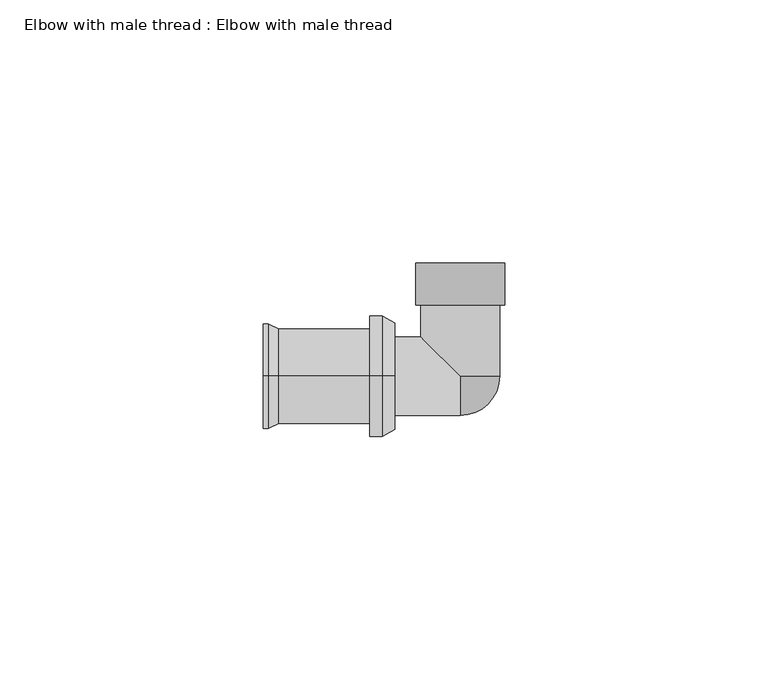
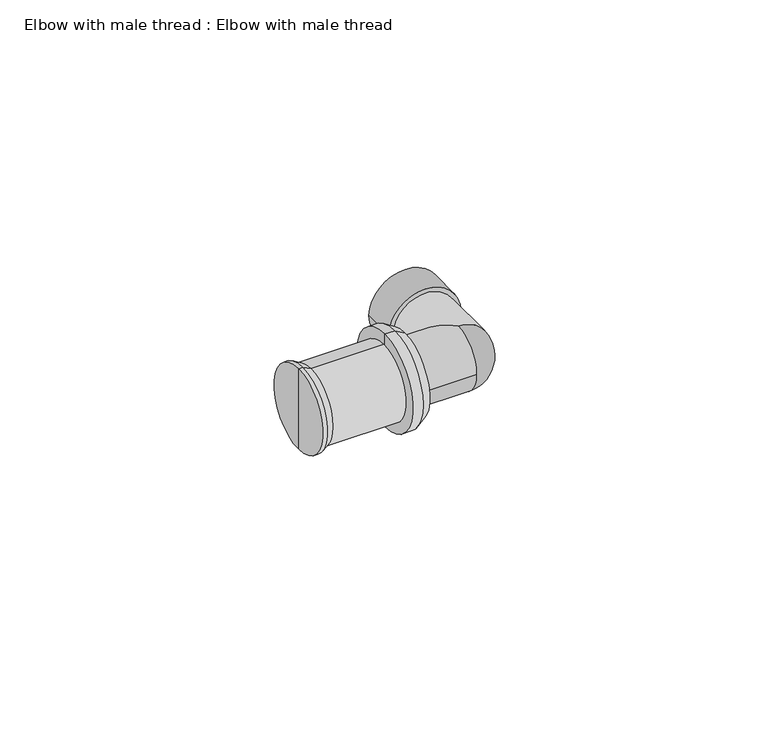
"""IFC4 building model written with IfcOpenShell, lengths in millimetres: pipe fitting geometry, Elbow with male thread : Elbow with male thread."""

from ifc_helpers import new_model, si_unit, point, frame, origin, place, context, project, spatial, polyline, circle_curve, ellipse_curve, trimmed, source, transform, mapped, element, save
from ifc_brep_helpers import plane_surface, cylinder_surface, revolved_surface, advanced_brep


def elbow_with_male_thread_elbow_with_male_thread_c3eabbbd(model_context):
    return source(origin(), model_context, "Body", "AdvancedBrep", [
        advanced_brep(
        [(-12.5, 0.0, 0.0), (-12.5, 0.0, 10.1432269), (-12.5, 0.0, -10.1432269), (-17.2, 0.0, -11.5), (-17.2, 0.0, 11.5), (-17.2, 0.0, 0.0), (-14.85, 0.0, -11.5), (-14.85, 0.0, 11.5)],
        [
            (0, 1),
            (1, 2, circle_curve(frame((-12.5, 0.0, 0.0), z_axis=(1.0, 0.0, 0.0), x_axis=(0.0, 0.0, 1.0)), 10.1432269)),
            (2, 0),
            (2, 1, circle_curve(frame((-12.5, 0.0, 0.0), z_axis=(1.0, 0.0, 0.0), x_axis=(0.0, 0.0, 1.0)), 10.1432269)),
            (3, 4, circle_curve(frame((-17.2, 0.0, 0.0), z_axis=(-1.0, 0.0, 0.0), x_axis=(0.0, 0.0, 1.0)), 11.5)),
            (4, 5),
            (5, 3),
            (4, 3, circle_curve(frame((-17.2, 0.0, 0.0), z_axis=(-1.0, 0.0, 0.0), x_axis=(0.0, 0.0, 1.0)), 11.5)),
            (6, 7, circle_curve(frame((-14.85, 0.0, 0.0), z_axis=(-1.0, 0.0, 0.0), x_axis=(0.0, 0.0, 1.0)), 11.5)),
            (7, 4),
            (3, 6),
            (7, 6, circle_curve(frame((-14.85, 0.0, 0.0), z_axis=(-1.0, 0.0, 0.0), x_axis=(0.0, 0.0, 1.0)), 11.5)),
            (1, 7),
            (6, 2),
        ],
        [
            plane_surface(frame((-12.5, 0.0, 0.0), z_axis=(1.0, 0.0, 0.0), x_axis=(0.0, 0.0, 1.0))),
            plane_surface(frame((-17.2, 0.0, 0.0), z_axis=(-1.0, 0.0, 0.0), x_axis=(0.0, 0.0, 1.0))),
            cylinder_surface(frame((-13.5, 0.0, 0.0), z_axis=(1.0, 0.0, 0.0), x_axis=(0.0, 0.0, 1.0)), 11.5),
            revolved_surface(polyline([(-14.85, 0.0, 11.5), (-12.5, 0.0, 10.1432269)]), (-13.5, 0.0, 0.0), (1.0, 0.0, 0.0)),
        ],
        [
            (0, [[1, 2, 3]]),
            (0, [[-3, 4, -1]]),
            (1, [[5, 6, 7]]),
            (1, [[8, -7, -6]]),
            (2, [[9, 10, -5, 11]]),
            (2, [[12, -11, -8, -10]]),
            (3, [[-2, 13, -9, 14]]),
            (3, [[-4, -14, -12, -13]]),
        ],
    ),
        advanced_brep(
        [(-17.2, 0.0, -9.0), (-17.2, 0.0, 9.0), (-34.5, 0.0, 9.0), (-34.5, 0.0, -9.0), (-37.5, 0.0, -10.0), (-37.5, 0.0, 10.0), (-37.5, 0.0, 0.0), (-17.2, 0.0, 0.0), (-36.5, 0.0, -10.0), (-36.5, 0.0, 10.0)],
        [
            (0, 1, circle_curve(frame((-17.2, 0.0, 0.0), z_axis=(-1.0, 0.0, 0.0), x_axis=(0.0, 0.0, 1.0)), 9.0)),
            (1, 2),
            (2, 3, circle_curve(frame((-34.5, 0.0, 0.0), z_axis=(1.0, 0.0, 0.0), x_axis=(0.0, 0.0, 1.0)), 9.0)),
            (3, 0),
            (1, 0, circle_curve(frame((-17.2, 0.0, 0.0), z_axis=(-1.0, 0.0, 0.0), x_axis=(0.0, 0.0, 1.0)), 9.0)),
            (3, 2, circle_curve(frame((-34.5, 0.0, 0.0), z_axis=(1.0, 0.0, 0.0), x_axis=(0.0, 0.0, 1.0)), 9.0)),
            (4, 5, circle_curve(frame((-37.5, 0.0, 0.0), z_axis=(-1.0, 0.0, 0.0), x_axis=(0.0, 0.0, 1.0)), 10.0)),
            (5, 6),
            (6, 4),
            (5, 4, circle_curve(frame((-37.5, 0.0, 0.0), z_axis=(-1.0, 0.0, 0.0), x_axis=(0.0, 0.0, 1.0)), 10.0)),
            (7, 1),
            (0, 7),
            (8, 9, circle_curve(frame((-36.5, 0.0, 0.0), z_axis=(-1.0, 0.0, 0.0), x_axis=(0.0, 0.0, 1.0)), 10.0)),
            (9, 5),
            (4, 8),
            (9, 8, circle_curve(frame((-36.5, 0.0, 0.0), z_axis=(-1.0, 0.0, 0.0), x_axis=(0.0, 0.0, 1.0)), 10.0)),
            (2, 9),
            (8, 3),
        ],
        [
            cylinder_surface(frame((1898.3038476, 0.0, 0.0), z_axis=(1.0, 0.0, 0.0), x_axis=(0.0, 0.0, 1.0)), 9.0),
            plane_surface(frame((-37.5, 0.0, 0.0), z_axis=(-1.0, 0.0, 0.0), x_axis=(0.0, 0.0, 1.0))),
            plane_surface(frame((-17.2, 0.0, 0.0), z_axis=(1.0, 0.0, 0.0), x_axis=(0.0, 0.0, 1.0))),
            cylinder_surface(frame((1898.3038476, 0.0, 0.0), z_axis=(1.0, 0.0, 0.0), x_axis=(0.0, 0.0, 1.0)), 10.0),
            revolved_surface(polyline([(-36.5, 0.0, 10.0), (-34.5, 0.0, 9.0)]), (1898.3038476, 0.0, 0.0), (1.0, 0.0, 0.0)),
        ],
        [
            (0, [[1, 2, 3, 4]]),
            (0, [[5, -4, 6, -2]]),
            (1, [[7, 8, 9]]),
            (1, [[10, -9, -8]]),
            (2, [[11, -1, 12]]),
            (2, [[-12, -5, -11]]),
            (3, [[13, 14, -7, 15]]),
            (3, [[16, -15, -10, -14]]),
            (4, [[-3, 17, -13, 18]]),
            (4, [[-6, -18, -16, -17]]),
        ],
    ),
        advanced_brep(
        [(-8.5, 21.5703979, 0.0), (8.5, 21.5703979, 0.0), (8.5, 13.5, 0.0), (-8.5, 13.5, 0.0), (0.0, 21.5703979, 0.0), (7.5, 13.5, 0.0), (-7.5, 13.5, 0.0), (7.5, 0.0, 0.0), (-7.5, 7.5, 0.0), (0.0, 0.0, 7.5), (0.0, 0.0, -7.5), (-13.5, 7.5, 0.0), (-13.5, -7.5, 0.0), (0.0, -7.5, 0.0)],
        [
            (0, 1, circle_curve(frame((0.0, 21.5703979, 0.0), z_axis=(0.0, -1.0, 0.0), x_axis=(1.0, 0.0, 0.0)), 8.5)),
            (1, 2),
            (2, 3, circle_curve(frame((0.0, 13.5, 0.0), z_axis=(0.0, 1.0, 0.0), x_axis=(1.0, 0.0, 0.0)), 8.5)),
            (3, 0),
            (1, 0, circle_curve(frame((0.0, 21.5703979, 0.0), z_axis=(0.0, -1.0, 0.0), x_axis=(1.0, 0.0, 0.0)), 8.5)),
            (3, 2, circle_curve(frame((0.0, 13.5, 0.0), z_axis=(0.0, 1.0, 0.0), x_axis=(1.0, 0.0, 0.0)), 8.5)),
            (0, 4),
            (4, 1),
            (2, 5),
            (5, 6, circle_curve(frame((0.0, 13.5, 0.0), z_axis=(0.0, 1.0, 0.0), x_axis=(-1.0, 0.0, 0.0)), 7.5)),
            (6, 3),
            (6, 5, circle_curve(frame((0.0, 13.5, 0.0), z_axis=(0.0, 1.0, 0.0), x_axis=(-1.0, 0.0, 0.0)), 7.5)),
            (7, 5),
            (6, 8),
            (8, 9, ellipse_curve(frame((0.0, 0.0, 0.0), z_axis=(0.7071067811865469, 0.707106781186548, 0.0), x_axis=(0.7071067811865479, -0.7071067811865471, 0.0)), 10.6066017, 7.5)),
            (9, 7, circle_curve(frame((0.0, 0.0, 0.0), z_axis=(0.0, 1.0, 0.0), x_axis=(-1.0, 0.0, 0.0)), 7.5)),
            (7, 10, circle_curve(frame((0.0, 0.0, 0.0), z_axis=(0.0, 1.0, 0.0), x_axis=(-1.0, 0.0, 0.0)), 7.5)),
            (10, 8, ellipse_curve(frame((0.0, 0.0, 0.0), z_axis=(0.7071067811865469, 0.707106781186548, 0.0), x_axis=(0.7071067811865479, -0.7071067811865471, 0.0)), 10.6066017, 7.5)),
            (11, 12, circle_curve(frame((-13.5, 0.0, 0.0), z_axis=(-1.0, 0.0, 0.0), x_axis=(0.0, -1.0, 0.0)), 7.5)),
            (12, 11, circle_curve(frame((-13.5, 0.0, 0.0), z_axis=(-1.0, 0.0, 0.0), x_axis=(0.0, -1.0, 0.0)), 7.5)),
            (12, 13),
            (13, 9, circle_curve(frame((0.0, 0.0, 0.0), z_axis=(-1.0, 0.0, 0.0), x_axis=(0.0, -1.0, 0.0)), 7.5)),
            (8, 11),
            (10, 13, circle_curve(frame((0.0, 0.0, 0.0), z_axis=(-1.0, 0.0, 0.0), x_axis=(0.0, -1.0, 0.0)), 7.5)),
        ],
        [
            cylinder_surface(frame((0.0, 0.0, 0.0), z_axis=(0.0, 1.0, 0.0), x_axis=(1.0, 0.0, 0.0)), 8.5),
            plane_surface(frame((0.0, 21.5703979, 0.0), z_axis=(0.0, 1.0, 0.0), x_axis=(1.0, 0.0, 0.0))),
            plane_surface(frame((0.0, 13.5, 0.0), z_axis=(0.0, -1.0, 0.0), x_axis=(1.0, 0.0, 0.0))),
            cylinder_surface(frame((0.0, 0.0, 0.0), z_axis=(0.0, -1.0, 0.0), x_axis=(-1.0, 0.0, 0.0)), 7.5),
            plane_surface(frame((-13.5, 0.0, 0.0), z_axis=(-1.0, 0.0, 0.0), x_axis=(0.0, 0.0, 1.0))),
            cylinder_surface(frame((0.0, 0.0, 0.0), z_axis=(1.0, 0.0, 0.0), x_axis=(0.0, -1.0, 0.0)), 7.5),
            revolved_surface(trimmed(ellipse_curve(frame((0.0, 0.0, 0.0), z_axis=(0.0, -1.0, 0.0), x_axis=(1.0, 0.0, 0.0)), 7.5, 7.5), [point((0.0, 0.0, -7.5))], [point((0.0, 0.0, 7.5))], True, "CARTESIAN"), (0.0, 0.0, 2609.0581012), (0.0, 0.0, 1.0)),
        ],
        [
            (0, [[1, 2, 3, 4]]),
            (0, [[-2, 5, -4, 6]]),
            (1, [[-1, 7, 8]]),
            (1, [[-5, -8, -7]]),
            (2, [[-3, 9, 10, 11]]),
            (2, [[-6, -11, 12, -9]]),
            (3, [[13, -12, 14, 15, 16]]),
            (3, [[-13, 17, 18, -14, -10]]),
            (4, [[19, 20]]),
            (5, [[-20, 21, 22, -15, 23]]),
            (5, [[-19, -23, -18, 24, -21]]),
            (6, [[-16, -22, -24, -17]]),
        ],
    ),
    ])


if __name__ == "__main__":
    model = new_model("IFC4")
    model_context = context("Model", 3, world=origin())
    ifc_project = project(units=[si_unit("LENGTHUNIT", "METRE", prefix="MILLI")], contexts=[model_context])
    site = spatial("IfcSite", under=ifc_project)
    building = spatial("IfcBuilding", under=site)
    placement = place(None, origin())
    elbow_with_male_thread_elbow_with_male_thread_shape = elbow_with_male_thread_elbow_with_male_thread_c3eabbbd(model_context)
    element("IfcPipeFitting", 1, ObjectType="Elbow with male thread : Elbow with male thread", at=placement, inside=building, context=model_context, shape_type="MappedRepresentation", body=[
        mapped(elbow_with_male_thread_elbow_with_male_thread_shape, transform((0.0, 0.0, 0.0), x_axis=(1.0, 0.0, 0.0), y_axis=(0.0, 1.0, 0.0), z_axis=(0.0, 0.0, 1.0))),
    ])
    save(model, "model.ifc")
